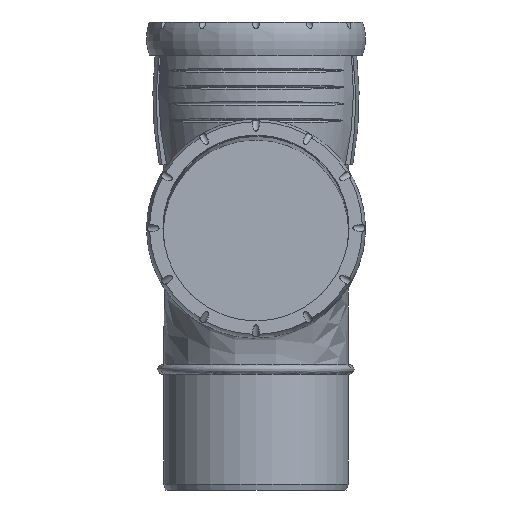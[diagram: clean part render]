
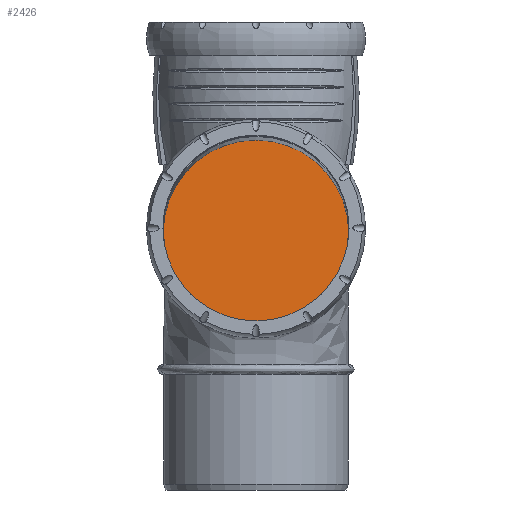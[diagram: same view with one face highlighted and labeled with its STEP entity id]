
A CAD part, left-side view. The second image highlights one B-rep face of the part: STEP entity #2426.
In plain terms, the highlighted planar face has unit normal (-0.999, 0, 0.044).
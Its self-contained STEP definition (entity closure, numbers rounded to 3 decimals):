
#332=PLANE('',#2644);
#510=FACE_OUTER_BOUND('',#703,.T.);
#703=EDGE_LOOP('',(#1903));
#840=CIRCLE('',#2645,55.5);
#1039=VERTEX_POINT('',#8921);
#1343=EDGE_CURVE('',#1039,#1039,#840,.T.);
#1903=ORIENTED_EDGE('',*,*,#1343,.T.);
#2426=ADVANCED_FACE('',(#510),#332,.T.);
#2644=AXIS2_PLACEMENT_3D('',#8920,#3035,#3036);
#2645=AXIS2_PLACEMENT_3D('',#8922,#3037,#3038);
#3035=DIRECTION('center_axis',(-0.999,0.,
0.044));
#3036=DIRECTION('ref_axis',(0.,1.,0.));
#3037=DIRECTION('center_axis',(-0.999,0.,
0.044));
#3038=DIRECTION('ref_axis',(0.,1.,0.));
#8920=CARTESIAN_POINT('Origin',(-80.16,0.,
153.88));
#8921=CARTESIAN_POINT('',(-82.581,0.,98.433));
#8922=CARTESIAN_POINT('Origin',(-80.16,0.,
153.88));
